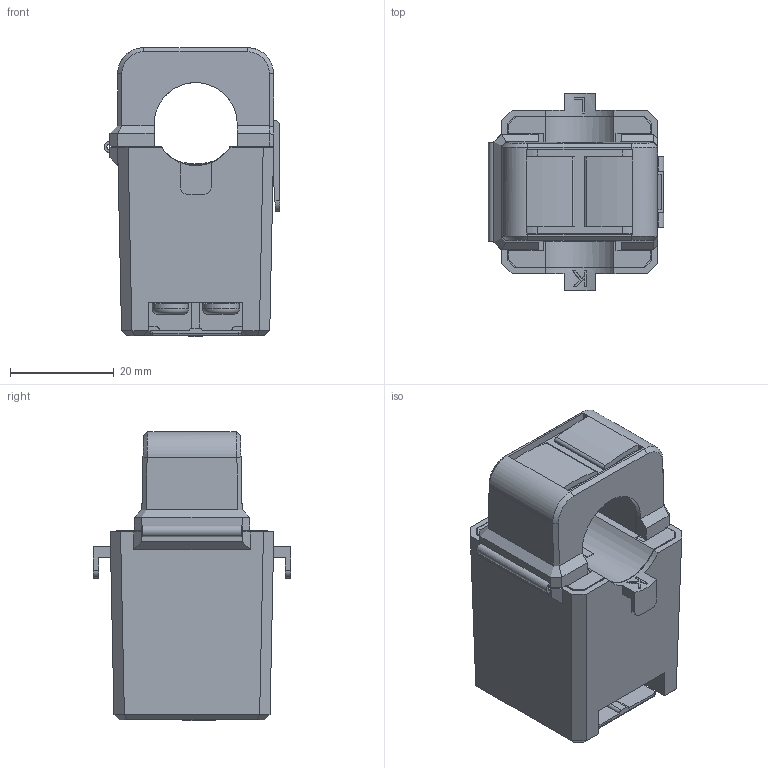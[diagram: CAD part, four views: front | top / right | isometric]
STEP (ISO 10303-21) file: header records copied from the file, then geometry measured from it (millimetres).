
FILE_DESCRIPTION(('FreeCAD Model'),'2;1');
FILE_NAME('Open CASCADE Shape Model','2023-05-30T18:53:54',('Author'),( ''),'Open CASCADE STEP processor 7.5','FreeCAD','Unknown');
FILE_SCHEMA(('AUTOMOTIVE_DESIGN { 1 0 10303 214 1 1 1 1 }'));
Length unit declared in the file: millimetre
Products named in the file (1): STo2F16
Bounding box: 33.8 x 38 x 55.64 mm (x, y, z)
Volume: 36169.7 mm3; surface area: 14061.6 mm2
Topology: 1 solids, 1 shells, 532 faces, 1500 edges, 972 vertices
Faces by surface type: plane 437, cylinder 62, extrusion 23, bspline 4, sphere 4, torus 2
Full cylindrical faces by diameter (mm): 2.3 x2, 3 x4, 3.5 x2, 7 x2
Entity records: 38208 total; most frequent: CARTESIAN_POINT 9255, DIRECTION 5015, VECTOR 3521, LINE 3498, ORIENTED_EDGE 2992, PCURVE 2992, DEFINITIONAL_REPRESENTATION 2992, EDGE_CURVE 1496
